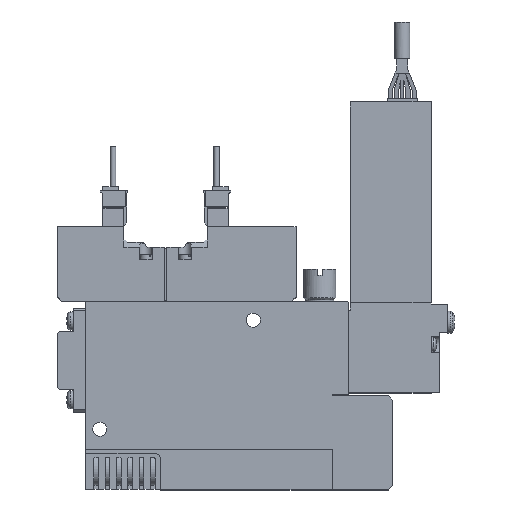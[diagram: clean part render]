
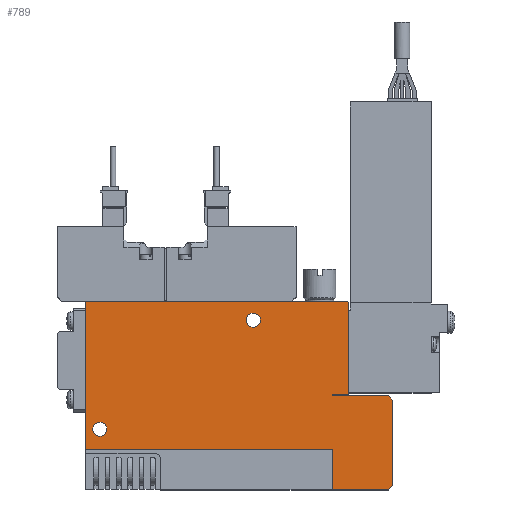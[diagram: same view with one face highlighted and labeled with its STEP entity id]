
A CAD part, top view. The second image highlights one B-rep face of the part: STEP entity #789.
In plain terms, the highlighted planar face has unit normal (0, 0, 1).
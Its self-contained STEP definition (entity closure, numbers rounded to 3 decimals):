
#789=ADVANCED_FACE('',(#1844,#1845,#1846),#1847,.F.);
#1844=FACE_OUTER_BOUND('',#2971,.T.);
#1845=FACE_BOUND('',#2972,.T.);
#1846=FACE_BOUND('',#2973,.T.);
#1847=PLANE('',#2974);
#2971=EDGE_LOOP('',(#6954,#6955,#6956,#6957,#6958,#6959,#6960,#6961,#6962,#6963,#6964,#6965,#6966,#6967));
#2972=EDGE_LOOP('',(#6968));
#2973=EDGE_LOOP('',(#6969));
#2974=AXIS2_PLACEMENT_3D('',#6970,#6971,#6972);
#6954=ORIENTED_EDGE('',*,*,#8642,.T.);
#6955=ORIENTED_EDGE('',*,*,#8305,.F.);
#6956=ORIENTED_EDGE('',*,*,#8685,.F.);
#6957=ORIENTED_EDGE('',*,*,#8611,.T.);
#6958=ORIENTED_EDGE('',*,*,#8669,.T.);
#6959=ORIENTED_EDGE('',*,*,#8691,.T.);
#6960=ORIENTED_EDGE('',*,*,#8634,.T.);
#6961=ORIENTED_EDGE('',*,*,#8667,.T.);
#6962=ORIENTED_EDGE('',*,*,#8619,.T.);
#6963=ORIENTED_EDGE('',*,*,#8647,.T.);
#6964=ORIENTED_EDGE('',*,*,#8638,.T.);
#6965=ORIENTED_EDGE('',*,*,#8651,.T.);
#6966=ORIENTED_EDGE('',*,*,#8672,.T.);
#6967=ORIENTED_EDGE('',*,*,#8629,.T.);
#6968=ORIENTED_EDGE('',*,*,#8654,.F.);
#6969=ORIENTED_EDGE('',*,*,#8687,.F.);
#6970=CARTESIAN_POINT('',(0.0,0.0,5.0));
#6971=DIRECTION('',(0.0,0.0,-1.0));
#6972=DIRECTION('',(0.0,-1.0,0.0));
#8305=EDGE_CURVE('',#10280,#10281,#10282,.T.);
#8611=EDGE_CURVE('',#10815,#10817,#10819,.T.);
#8619=EDGE_CURVE('',#10832,#10830,#10833,.T.);
#8629=EDGE_CURVE('',#10846,#10844,#10847,.T.);
#8634=EDGE_CURVE('',#10854,#10852,#10855,.T.);
#8638=EDGE_CURVE('',#10860,#10858,#10861,.T.);
#8642=EDGE_CURVE('',#10844,#10281,#10865,.T.);
#8647=EDGE_CURVE('',#10830,#10860,#10872,.T.);
#8651=EDGE_CURVE('',#10858,#10876,#10878,.T.);
#8654=EDGE_CURVE('',#10883,#10883,#10884,.T.);
#8667=EDGE_CURVE('',#10852,#10832,#10897,.T.);
#8669=EDGE_CURVE('',#10817,#10898,#10900,.T.);
#8672=EDGE_CURVE('',#10876,#10846,#10904,.T.);
#8685=EDGE_CURVE('',#10815,#10280,#10921,.T.);
#8687=EDGE_CURVE('',#10923,#10923,#10924,.T.);
#8691=EDGE_CURVE('',#10898,#10854,#10928,.T.);
#10280=VERTEX_POINT('',#13509);
#10281=VERTEX_POINT('',#13510);
#10282=LINE('',#13511,#13512);
#10815=VERTEX_POINT('',#14447);
#10817=VERTEX_POINT('',#14450);
#10819=LINE('',#14453,#14454);
#10830=VERTEX_POINT('',#14468);
#10832=VERTEX_POINT('',#14471);
#10833=LINE('',#14472,#14473);
#10844=VERTEX_POINT('',#14491);
#10846=VERTEX_POINT('',#14494);
#10847=LINE('',#14495,#14496);
#10852=VERTEX_POINT('',#14503);
#10854=VERTEX_POINT('',#14506);
#10855=LINE('',#14507,#14508);
#10858=VERTEX_POINT('',#14513);
#10860=VERTEX_POINT('',#14516);
#10861=LINE('',#14517,#14518);
#10865=LINE('',#14525,#14526);
#10872=LINE('',#14553,#14554);
#10876=VERTEX_POINT('',#14560);
#10878=LINE('',#14563,#14564);
#10883=VERTEX_POINT('',#14570);
#10884=CIRCLE('',#14571,1.75);
#10897=LINE('',#14604,#14605);
#10898=VERTEX_POINT('',#14606);
#10900=LINE('',#14609,#14610);
#10904=LINE('',#14616,#14617);
#10921=LINE('',#14644,#14645);
#10923=VERTEX_POINT('',#14647);
#10924=CIRCLE('',#14648,1.75);
#10928=LINE('',#14655,#14656);
#13509=CARTESIAN_POINT('',(61.1,10.1,5.0));
#13510=CARTESIAN_POINT('',(0.0,10.1,5.0));
#13511=CARTESIAN_POINT('',(61.1,10.1,5.0));
#13512=VECTOR('',#16160,1.0);
#14447=CARTESIAN_POINT('',(61.1,0.0,5.0));
#14450=CARTESIAN_POINT('',(75.0,0.0,5.0));
#14453=CARTESIAN_POINT('',(0.0,0.0,5.0));
#14454=VECTOR('',#16571,1.0);
#14468=CARTESIAN_POINT('',(61.0,23.5,5.0));
#14471=CARTESIAN_POINT('',(61.0,23.25,5.0));
#14472=CARTESIAN_POINT('',(61.0,23.25,5.0));
#14473=VECTOR('',#16585,1.0);
#14491=CARTESIAN_POINT('',(0.0,46.4,5.0));
#14494=CARTESIAN_POINT('',(0.2,46.6,5.0));
#14495=CARTESIAN_POINT('',(0.2,46.6,5.0));
#14496=VECTOR('',#16597,1.0);
#14503=CARTESIAN_POINT('',(75.0,23.25,5.0));
#14506=CARTESIAN_POINT('',(76.0,22.25,5.0));
#14507=CARTESIAN_POINT('',(76.0,22.25,5.0));
#14508=VECTOR('',#16604,1.0);
#14513=CARTESIAN_POINT('',(65.0,46.4,5.0));
#14516=CARTESIAN_POINT('',(65.0,23.5,5.0));
#14517=CARTESIAN_POINT('',(65.0,23.5,5.0));
#14518=VECTOR('',#16608,1.0);
#14525=CARTESIAN_POINT('',(0.0,46.4,5.0));
#14526=VECTOR('',#16612,1.0);
#14553=CARTESIAN_POINT('',(61.0,23.5,5.0));
#14554=VECTOR('',#16617,1.0);
#14560=CARTESIAN_POINT('',(64.8,46.6,5.0));
#14563=CARTESIAN_POINT('',(65.0,46.4,5.0));
#14564=VECTOR('',#16621,1.0);
#14570=CARTESIAN_POINT('',(5.25,15.0,5.0));
#14571=AXIS2_PLACEMENT_3D('',#16626,#16627,#16628);
#14604=CARTESIAN_POINT('',(75.0,23.25,5.0));
#14605=VECTOR('',#16642,1.0);
#14606=CARTESIAN_POINT('',(76.0,1.0,5.0));
#14609=CARTESIAN_POINT('',(75.0,0.0,5.0));
#14610=VECTOR('',#16644,1.0);
#14616=CARTESIAN_POINT('',(64.8,46.6,5.0));
#14617=VECTOR('',#16647,1.0);
#14644=CARTESIAN_POINT('',(61.1,0.0,5.0));
#14645=VECTOR('',#16664,1.0);
#14647=CARTESIAN_POINT('',(43.25,42.0,5.0));
#14648=AXIS2_PLACEMENT_3D('',#16668,#16669,#16670);
#14655=CARTESIAN_POINT('',(76.0,1.0,5.0));
#14656=VECTOR('',#16674,1.0);
#16160=DIRECTION('',(-1.0,0.0,0.0));
#16571=DIRECTION('',(1.0,0.0,0.0));
#16585=DIRECTION('',(0.0,1.0,0.0));
#16597=DIRECTION('',(-0.707,-0.707,0.0));
#16604=DIRECTION('',(-0.707,0.707,0.0));
#16608=DIRECTION('',(0.0,1.0,0.0));
#16612=DIRECTION('',(0.0,-1.0,0.0));
#16617=DIRECTION('',(1.0,0.,0.0));
#16621=DIRECTION('',(-0.707,0.707,0.0));
#16626=CARTESIAN_POINT('',(3.5,15.0,5.0));
#16627=DIRECTION('',(0.0,0.0,1.0));
#16628=DIRECTION('',(1.0,0.0,0.0));
#16642=DIRECTION('',(-1.0,0.0,0.0));
#16644=DIRECTION('',(0.707,0.707,0.0));
#16647=DIRECTION('',(-1.0,0.0,0.0));
#16664=DIRECTION('',(0.0,1.0,0.0));
#16668=CARTESIAN_POINT('',(41.5,42.0,5.0));
#16669=DIRECTION('',(0.0,0.0,1.0));
#16670=DIRECTION('',(1.0,0.0,0.0));
#16674=DIRECTION('',(0.0,1.0,0.0));
